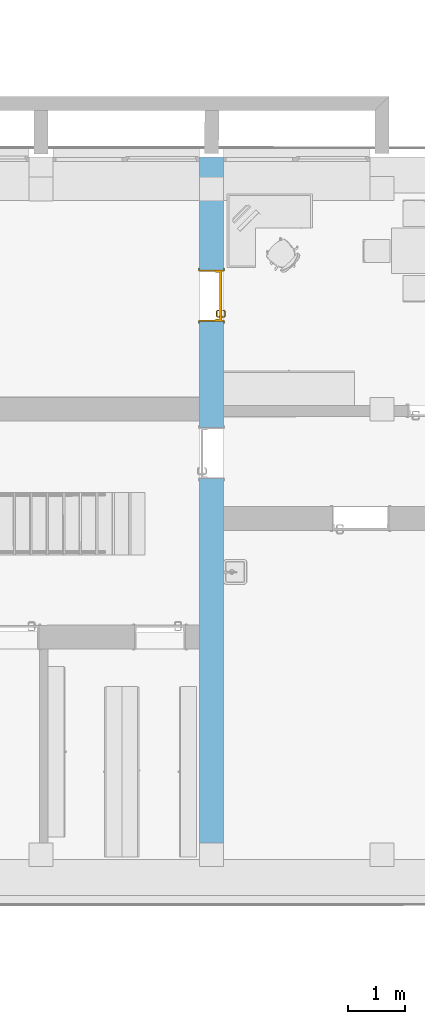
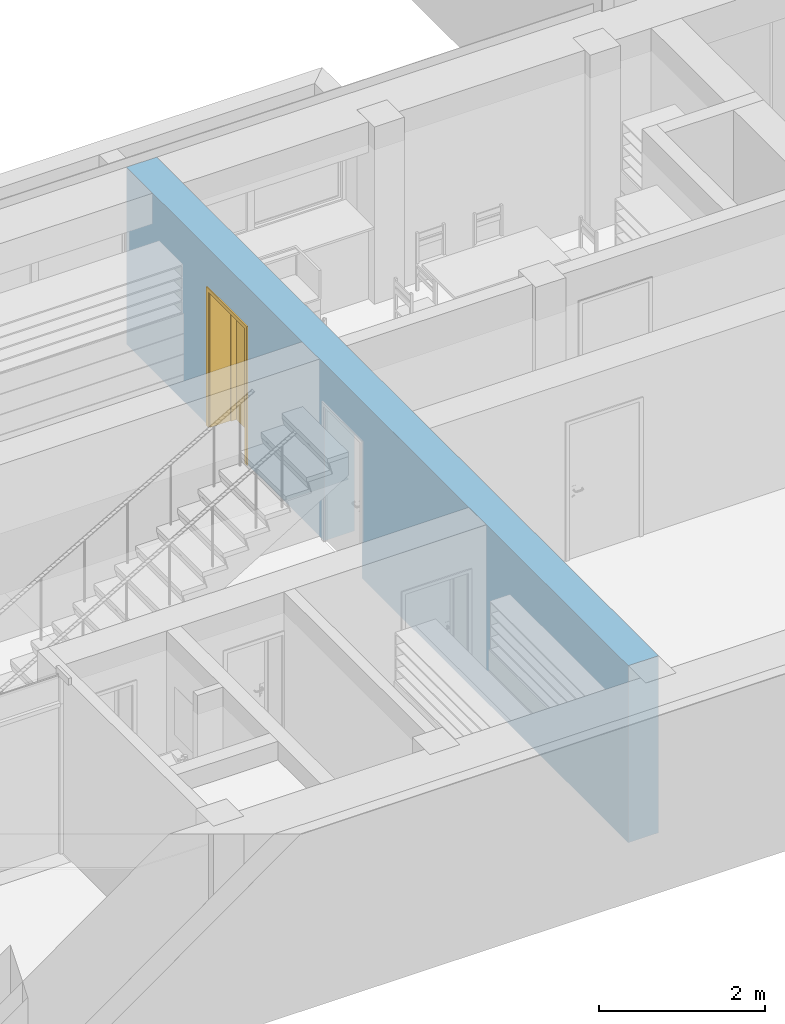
# One storey, part 37 of 127: 1 door, 2 openings, plus 1 element that does not belong to this part.
"""IFC2X3 building model written with IfcOpenShell, lengths in millimetres."""

from ifc_helpers import new_model, entity, si_unit, converted_unit, derived_unit, money_unit, direction, frame, origin_with_axes, origin_2d_with_axis, place, context, subcontext, project, spatial, polyline, rectangle, outline, extrude, open_shell, faceted_brep, surface_model, material, layer, layer_set, layer_usage, type_object, element, fill, save


model = new_model("IFC2X3")

# Units and contexts
model_context = context("Model", 3, precision=1e-05, world=origin_with_axes(), true_north=direction((0.0, 1.0)))
body_context = subcontext(model_context, "Body", "Model", "MODEL_VIEW")
ifc_project = project(units=[si_unit("LENGTHUNIT", "METRE", prefix="MILLI"), si_unit("AREAUNIT", "SQUARE_METRE"), si_unit("VOLUMEUNIT", "CUBIC_METRE"), converted_unit("PLANEANGLEUNIT", "DEGREE", entity("IfcPlaneAngleMeasure", 0.0174532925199), si_unit("PLANEANGLEUNIT", "RADIAN"), dimensions=[0, 0, 0, 0, 0, 0, 0]), si_unit("SOLIDANGLEUNIT", "STERADIAN"), money_unit("EUR"), converted_unit("TIMEUNIT", "Year", entity("IfcTimeMeasure", 31556926.0), si_unit("TIMEUNIT", "SECOND"), dimensions=[0, 0, 1, 0, 0, 0, 0]), si_unit("MASSUNIT", "GRAM", prefix="KILO"), si_unit("THERMODYNAMICTEMPERATUREUNIT", "DEGREE_CELSIUS"), si_unit("LUMINOUSINTENSITYUNIT", "LUMEN"), si_unit("ENERGYUNIT", "JOULE", prefix="MEGA"), derived_unit("THERMALCONDUCTANCEUNIT", [(si_unit("POWERUNIT", "WATT"), 1), (si_unit("LENGTHUNIT", "METRE"), -1), (si_unit("THERMODYNAMICTEMPERATUREUNIT", "KELVIN"), -1)]), derived_unit("SPECIFICHEATCAPACITYUNIT", [(si_unit("ENERGYUNIT", "JOULE"), 1), (si_unit("MASSUNIT", "GRAM", prefix="KILO"), -1), (si_unit("THERMODYNAMICTEMPERATUREUNIT", "KELVIN"), -1)]), derived_unit("MASSDENSITYUNIT", [(si_unit("MASSUNIT", "GRAM", prefix="KILO"), 1), (si_unit("VOLUMEUNIT", "CUBIC_METRE"), -1)])], contexts=[model_context])

# Site, building, storey
site_placement = place(None, origin_with_axes())
site = spatial("IfcSite", under=ifc_project, at=site_placement, Name="Site", CompositionType="ELEMENT")
building_placement = place(site_placement, origin_with_axes())
building = spatial("IfcBuilding", under=site, at=building_placement, Name="Building", CompositionType="ELEMENT")
storey_placement = place(building_placement, origin_with_axes())
storey = spatial("IfcBuildingStorey", under=building, at=storey_placement, Name="1 KORRUS", CompositionType="ELEMENT", Elevation=0.0)

# Wall, openings, door
ifc_material = material(Name="Kivi -Ol.Olev Konstruktsioon")
ifc_layer = layer(ifc_material, 420.0, ventilated="UNKNOWN")
ifc_layer_set = layer_set([ifc_layer], Name="ol.olev ss 420")
ifc_layer_usage = layer_usage(ifc_layer_set, "AXIS2", "POSITIVE", 0.0)
wall_type = type_object("IfcWallType", Name="SW - 036", PredefinedType="NOTDEFINED")
wall_placement = place(storey_placement, frame((30733.8006358, 47248.9611995, 0.0), z_axis=(0.0, 0.0, 1.0), x_axis=(0.0, -1.0, 0.0)))
wall = element("IfcWallStandardCase", 1, at=wall_placement, inside=storey, type_object=wall_type, material=ifc_layer_usage, Name="ol.olev ss 420", context=body_context, shape_type="SweptSolid", body=[
    extrude(outline(polyline([(0.0, 0.0), (12067.3369297, 0.0), (12067.3369297, 420.0), (0.0, 420.0), (0.0, 0.0)])), origin_with_axes(), (0.0, 0.0, 1.0), 2600.0),
])
opening_1_placement = place(wall_placement, frame((5209.12746929, 0.0, 0.0), z_axis=(0.0, 0.0, 1.0), x_axis=(1.0, 0.0, 0.0)))
element("IfcOpeningElement", 2, at=opening_1_placement, cuts=wall, Name="Siseuks * Door 22", context=body_context, shape_type="SweptSolid", body=[
    extrude(rectangle(XDim=900.0, YDim=2000.0, at=origin_2d_with_axis()), frame((0.0, 140.0, 1000.0), z_axis=(0.0, -1.0, 0.0), x_axis=(-1.0, 0.0, 0.0)), (0.0, 0.0, -1.0), 700.0),
    extrude(rectangle(XDim=900.0, YDim=2000.0, at=origin_2d_with_axis()), frame((0.0, 140.0, 1000.0), z_axis=(0.0, 1.0, 0.0), x_axis=(-1.0, 0.0, 0.0)), (0.0, 0.0, -1.0), 560.0),
    extrude(rectangle(XDim=974.0, YDim=2037.0, at=origin_2d_with_axis()), frame((0.0, 0.0, 1018.5), z_axis=(0.0, 1.0, 0.0), x_axis=(-1.0, 0.0, 0.0)), (0.0, 0.0, -1.0), 700.0),
    extrude(rectangle(XDim=974.0, YDim=2037.0, at=origin_2d_with_axis()), frame((0.0, 420.0, 1018.5), z_axis=(0.0, -1.0, 0.0), x_axis=(-1.0, 0.0, 0.0)), (0.0, 0.0, -1.0), 700.0),
])
opening_2_placement = place(wall_placement, frame((2438.5586569, 0.0, 0.0), z_axis=(0.0, 0.0, 1.0), x_axis=(1.0, 0.0, 0.0)))
opening_2 = element("IfcOpeningElement", 3, at=opening_2_placement, cuts=wall, Name="Siseuks * Door 22", context=body_context, shape_type="SweptSolid", body=[
    extrude(rectangle(XDim=900.0, YDim=2000.0, at=origin_2d_with_axis()), frame((0.0, 280.0, 1000.0), z_axis=(0.0, -1.0, 0.0), x_axis=(-1.0, 0.0, 0.0)), (0.0, 0.0, 1.0), 700.0),
    extrude(rectangle(XDim=900.0, YDim=2000.0, at=origin_2d_with_axis()), frame((0.0, 280.0, 1000.0), z_axis=(0.0, 1.0, 0.0), x_axis=(-1.0, 0.0, 0.0)), (0.0, 0.0, 1.0), 560.0),
    extrude(rectangle(XDim=974.0, YDim=2037.0, at=origin_2d_with_axis()), frame((0.0, 420.0, 1018.5), z_axis=(0.0, 1.0, 0.0), x_axis=(-1.0, 0.0, 0.0)), (0.0, 0.0, 1.0), 700.0),
    extrude(rectangle(XDim=974.0, YDim=2037.0, at=origin_2d_with_axis()), frame((0.0, 0.0, 1018.5), z_axis=(0.0, -1.0, 0.0), x_axis=(-1.0, 0.0, 0.0)), (0.0, 0.0, 1.0), 700.0),
])
door_style = type_object("IfcDoorStyle", Name="SU-B108A   900×2\xa0000", ConstructionType="NOTDEFINED", OperationType="SINGLE_SWING_LEFT", ParameterTakesPrecedence=False, Sizeable=False)
door_placement = place(opening_2_placement, frame((-450.0, 0.0, 0.0), z_axis=(0.0, 0.0, 1.0), x_axis=(1.0, 0.0, 0.0)))
door = element("IfcDoor", 4, at=door_placement, inside=storey, type_object=door_style, Name="Siseuks * Door 22", OverallHeight=2000.0, OverallWidth=900.0, context=body_context, shape_type="SurfaceModel", body=[
    faceted_brep([(900.0, 395.0, 0.0), (875.0, 395.0, 0.0), (875.0, 420.0, 0.0), (900.0, 420.0, 0.0), (900.0, 395.0, 2000.0), (875.0, 395.0, 1975.0), (875.0, 420.0, 1975.0), (900.0, 420.0, 2000.0)], [[[0, 1, 2, 3]], [[0, 4, 5, 1]], [[1, 5, 6, 2]], [[3, 2, 6, 7]], [[4, 0, 3, 7]], [[5, 4, 7, 6]]]),
    faceted_brep([(0.0, 395.0, 2000.0), (24.9999999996, 395.0, 1975.0), (24.9999999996, 420.0, 1975.0), (0.0, 420.0, 2000.0), (0.0, 395.0, 0.0), (24.9999999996, 395.0, 0.0), (24.9999999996, 420.0, 0.0), (0.0, 420.0, 0.0)], [[[0, 1, 2, 3]], [[0, 4, 5, 1]], [[1, 5, 6, 2]], [[3, 2, 6, 7]], [[4, 0, 3, 7]], [[5, 4, 7, 6]]]),
    faceted_brep([(875.0, 395.0, 1975.0), (24.9999999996, 395.0, 1975.0), (24.9999999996, 420.0, 1975.0), (875.0, 420.0, 1975.0), (900.0, 395.0, 2000.0), (0.0, 395.0, 2000.0), (0.0, 420.0, 2000.0), (900.0, 420.0, 2000.0)], [[[0, 1, 2, 3]], [[0, 4, 5, 1]], [[1, 5, 6, 2]], [[3, 2, 6, 7]], [[4, 0, 3, 7]], [[5, 4, 7, 6]]]),
    faceted_brep([(937.0, 439.0, 0.0), (937.0, 420.0, 0.0), (887.0, 420.0, 0.0), (887.0, 439.0, 0.0), (937.0, 439.0, 2037.0), (937.0, 420.0, 2037.0), (887.0, 420.0, 1987.0), (887.0, 439.0, 1987.0)], [[[0, 1, 2, 3]], [[4, 5, 1, 0]], [[1, 5, 6, 2]], [[3, 2, 6, 7]], [[0, 3, 7, 4]], [[7, 6, 5, 4]]]),
    faceted_brep([(-37.0000000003, 439.0, 2037.0), (-37.0000000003, 420.0, 2037.0), (12.9999999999, 420.0, 1987.0), (12.9999999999, 439.0, 1987.0), (-37.0000000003, 439.0, 0.0), (-37.0000000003, 420.0, 0.0), (12.9999999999, 420.0, 0.0), (12.9999999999, 439.0, 0.0)], [[[0, 1, 2, 3]], [[4, 5, 1, 0]], [[1, 5, 6, 2]], [[3, 2, 6, 7]], [[0, 3, 7, 4]], [[7, 6, 5, 4]]]),
    faceted_brep([(937.0, 439.0, 2037.0), (937.0, 420.0, 2037.0), (887.0, 420.0, 1987.0), (887.0, 439.0, 1987.0), (-37.0000000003, 439.0, 2037.0), (-37.0000000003, 420.0, 2037.0), (12.9999999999, 420.0, 1987.0), (12.9999999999, 439.0, 1987.0)], [[[0, 1, 2, 3]], [[4, 5, 1, 0]], [[1, 5, 6, 2]], [[3, 2, 6, 7]], [[0, 3, 7, 4]], [[7, 6, 5, 4]]]),
    faceted_brep([(900.0, 280.0, 0.0), (900.0, 0.0, 0.0), (875.0, 0.0, 0.0), (875.0, 280.0, 0.0), (900.0, 280.0, 2000.0), (900.0, 0.0, 2000.0), (875.0, 0.0, 1975.0), (875.0, 280.0, 1975.0)], [[[0, 1, 2, 3]], [[4, 5, 1, 0]], [[1, 5, 6, 2]], [[3, 2, 6, 7]], [[0, 3, 7, 4]], [[7, 6, 5, 4]]]),
    faceted_brep([(0.0, 280.0, 2000.0), (0.0, 0.0, 2000.0), (24.9999999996, 0.0, 1975.0), (24.9999999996, 280.0, 1975.0), (0.0, 280.0, 0.0), (0.0, 0.0, 0.0), (24.9999999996, 0.0, 0.0), (24.9999999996, 280.0, 0.0)], [[[0, 1, 2, 3]], [[4, 5, 1, 0]], [[1, 5, 6, 2]], [[3, 2, 6, 7]], [[0, 3, 7, 4]], [[7, 6, 5, 4]]]),
    faceted_brep([(900.0, 280.0, 2000.0), (900.0, 0.0, 2000.0), (875.0, 0.0, 1975.0), (875.0, 280.0, 1975.0), (0.0, 280.0, 2000.0), (0.0, 0.0, 2000.0), (24.9999999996, 0.0, 1975.0), (24.9999999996, 280.0, 1975.0)], [[[0, 1, 2, 3]], [[4, 5, 1, 0]], [[1, 5, 6, 2]], [[3, 2, 6, 7]], [[0, 3, 7, 4]], [[7, 6, 5, 4]]]),
    faceted_brep([(937.0, -19.0, 0.0), (887.0, -19.0, 0.0), (887.0, 0.0, 0.0), (937.0, 0.0, 0.0), (937.0, -19.0, 2037.0), (887.0, -19.0, 1987.0), (887.0, 0.0, 1987.0), (937.0, 0.0, 2037.0)], [[[0, 1, 2, 3]], [[0, 4, 5, 1]], [[1, 5, 6, 2]], [[3, 2, 6, 7]], [[4, 0, 3, 7]], [[5, 4, 7, 6]]]),
    faceted_brep([(-37.0000000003, -19.0, 2037.0), (12.9999999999, -19.0, 1987.0), (12.9999999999, 0.0, 1987.0), (-37.0000000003, 0.0, 2037.0), (-37.0000000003, -19.0, 0.0), (12.9999999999, -19.0, 0.0), (12.9999999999, 0.0, 0.0), (-37.0000000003, 0.0, 0.0)], [[[0, 1, 2, 3]], [[0, 4, 5, 1]], [[1, 5, 6, 2]], [[3, 2, 6, 7]], [[4, 0, 3, 7]], [[5, 4, 7, 6]]]),
    faceted_brep([(937.0, -19.0, 2037.0), (887.0, -19.0, 1987.0), (887.0, 0.0, 1987.0), (937.0, 0.0, 2037.0), (-37.0000000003, -19.0, 2037.0), (12.9999999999, -19.0, 1987.0), (12.9999999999, 0.0, 1987.0), (-37.0000000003, 0.0, 2037.0)], [[[0, 1, 2, 3]], [[0, 4, 5, 1]], [[1, 5, 6, 2]], [[3, 2, 6, 7]], [[4, 0, 3, 7]], [[5, 4, 7, 6]]]),
    faceted_brep([(860.0, 355.0, 0.0), (860.0, 280.0, 0.0), (860.0, 280.0, 1960.0), (860.0, 355.0, 1960.0), (871.999999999, 355.0, 0.0), (871.999999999, 395.0, 0.0), (900.0, 395.0, 0.0), (900.0, 280.0, 0.0), (900.0, 280.0, 1960.0), (871.999999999, 355.0, 1960.0), (900.0, 395.0, 1960.0), (871.999999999, 395.0, 1960.0)], [[[0, 1, 2, 3]], [[4, 5, 6, 7, 1, 0]], [[1, 7, 8, 2]], [[9, 3, 2, 8, 10, 11]], [[9, 4, 0, 3]], [[11, 5, 4, 9]], [[11, 10, 6, 5]], [[6, 10, 8, 7]]]),
    faceted_brep([(28.0000000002, 355.0, 1960.0), (28.0000000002, 395.0, 1960.0), (0.0, 395.0, 1960.0), (0.0, 280.0, 1960.0), (40.0, 280.0, 1960.0), (40.0, 355.0, 1960.0), (28.0000000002, 355.0, 0.0), (28.0000000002, 395.0, 0.0), (0.0, 395.0, 0.0), (0.0, 280.0, 0.0), (40.0, 280.0, 0.0), (40.0, 355.0, 0.0)], [[[0, 1, 2, 3, 4, 5]], [[0, 6, 7, 1]], [[7, 8, 2, 1]], [[2, 8, 9, 3]], [[3, 9, 10, 4]], [[5, 4, 10, 11]], [[5, 11, 6, 0]], [[6, 11, 10, 9, 8, 7]]]),
    faceted_brep([(871.999999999, 395.0, 1972.0), (28.0000000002, 395.0, 1972.0), (28.0000000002, 395.0, 1960.0), (0.0, 395.0, 1960.0), (0.0, 395.0, 2000.0), (900.0, 395.0, 2000.0), (900.0, 395.0, 1960.0), (871.999999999, 395.0, 1960.0), (871.999999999, 355.0, 1972.0), (28.0000000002, 355.0, 1972.0), (28.0000000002, 355.0, 1960.0), (40.0, 355.0, 1960.0), (40.0, 280.0, 1960.0), (0.0, 280.0, 1960.0), (0.0, 280.0, 2000.0), (900.0, 280.0, 2000.0), (900.0, 280.0, 1960.0), (871.999999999, 355.0, 1960.0), (860.0, 280.0, 1960.0), (860.0, 355.0, 1960.0)], [[[0, 1, 2, 3, 4, 5, 6, 7]], [[0, 8, 9, 1]], [[1, 9, 10, 2]], [[10, 11, 12, 13, 3, 2]], [[4, 3, 13, 14]], [[5, 4, 14, 15]], [[6, 5, 15, 16]], [[17, 7, 6, 16, 18, 19]], [[7, 17, 8, 0]], [[10, 9, 8, 17, 19, 11]], [[19, 18, 12, 11]], [[12, 18, 16, 15, 14, 13]]]),
    faceted_brep([(850.5, 355.0, 1060.0), (793.5, 355.0, 1060.0), (793.5, 352.0, 1060.0), (850.5, 352.0, 1060.0), (850.5, 355.0, 870.0), (793.5, 355.0, 870.0), (793.5, 352.0, 870.0), (850.5, 352.0, 870.0)], [[[0, 1, 2, 3]], [[0, 4, 5, 1]], [[1, 5, 6, 2]], [[3, 2, 6, 7]], [[4, 0, 3, 7]], [[5, 4, 7, 6]]]),
    surface_model("IfcShellBasedSurfaceModel", [(812.0, 342.0, 1000.0), (814.928932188, 342.0, 992.928932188), (814.928932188, 322.696439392, 992.928932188), (812.0, 322.984914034, 1000.0), (822.0, 342.0, 990.0), (822.0, 322.0, 990.0), (813.816790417, 317.105325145, 992.928932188), (811.057796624, 318.248137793, 1000.0), (814.928932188, 342.0, 1007.07106781), (814.928932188, 322.696439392, 1007.07106781), (829.071067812, 342.0, 992.928932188), (829.071067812, 321.303560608, 992.928932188), (820.47759065, 314.346331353, 990.0), (811.044179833, 312.955820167, 992.928932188), (808.932537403, 315.067462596, 1000.0), (813.816790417, 317.105325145, 1007.07106781), (822.0, 342.0, 1010.0), (822.0, 322.0, 1010.0), (831.999999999, 342.0, 1000.0), (831.999999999, 321.015085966, 1000.0), (827.138390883, 311.58733756, 992.928932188), (816.142135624, 307.857864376, 990.0), (806.894674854, 310.183209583, 992.928932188), (805.751862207, 312.942203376, 1000.0), (811.044179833, 312.955820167, 1007.07106781), (820.47759065, 314.346331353, 1010.0), (829.071067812, 342.0, 1007.07106781), (829.071067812, 321.303560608, 1007.07106781), (829.897384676, 310.444524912, 1000.0), (821.240091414, 302.759908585, 992.928932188), (809.653668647, 303.52240935, 990.0), (801.303560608, 309.071067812, 992.928932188), (801.015085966, 312.0, 1000.0), (806.894674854, 310.183209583, 1007.07106781), (816.142135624, 307.857864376, 1010.0), (827.138390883, 311.58733756, 1007.07106781), (823.351733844, 300.648266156, 1000.0), (812.41266244, 296.861609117, 992.928932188), (802.0, 302.0, 990.0), (732.696439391, 309.071067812, 992.928932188), (732.984914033, 312.0, 1000.0), (801.303560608, 309.071067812, 1007.07106781), (809.653668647, 303.52240935, 1010.0), (821.240091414, 302.759908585, 1007.07106781), (813.555475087, 294.102615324, 1000.0), (802.696439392, 294.928932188, 992.928932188), (732.0, 302.0, 990.0), (727.105325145, 310.183209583, 992.928932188), (728.248137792, 312.942203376, 1000.0), (732.696439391, 309.071067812, 1007.07106781), (802.0, 302.0, 1010.0), (812.41266244, 296.861609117, 1007.07106781), (802.984914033, 292.0, 1000.0), (731.303560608, 294.928932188, 992.928932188), (724.346331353, 303.52240935, 990.0), (722.955820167, 312.955820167, 992.928932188), (725.067462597, 315.067462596, 1000.0), (727.105325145, 310.183209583, 1007.07106781), (732.0, 302.0, 1010.0), (802.696439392, 294.928932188, 1007.07106781), (731.015085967, 292.0, 1000.0), (721.58733756, 296.861609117, 992.928932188), (717.857864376, 307.857864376, 990.0), (720.183209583, 317.105325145, 992.928932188), (722.942203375, 318.248137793, 1000.0), (722.955820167, 312.955820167, 1007.07106781), (724.346331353, 303.52240935, 1010.0), (731.303560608, 294.928932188, 1007.07106781), (720.444524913, 294.102615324, 1000.0), (712.759908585, 302.759908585, 992.928932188), (713.52240935, 314.346331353, 990.0), (719.071067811, 322.696439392, 992.928932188), (722.0, 322.984914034, 1000.0), (720.183209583, 317.105325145, 1007.07106781), (717.857864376, 307.857864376, 1010.0), (721.58733756, 296.861609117, 1007.07106781), (710.648266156, 300.648266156, 1000.0), (706.861609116, 311.58733756, 992.928932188), (712.0, 322.0, 990.0), (719.071067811, 342.0, 992.928932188), (722.0, 342.0, 1000.0), (719.071067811, 322.696439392, 1007.07106781), (713.52240935, 314.346331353, 1010.0), (712.759908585, 302.759908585, 1007.07106781), (704.102615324, 310.444524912, 1000.0), (704.928932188, 321.303560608, 992.928932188), (712.0, 342.0, 990.0), (704.928932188, 342.0, 992.928932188), (702.0, 342.0, 1000.0), (704.928932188, 342.0, 1007.07106781), (712.0, 342.0, 1010.0), (719.071067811, 342.0, 1007.07106781), (712.0, 322.0, 1010.0), (706.861609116, 311.58733756, 1007.07106781), (702.0, 321.015085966, 1000.0), (704.928932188, 321.303560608, 1007.07106781)], [open_shell([[[0, 1, 2, 3]], [[1, 4, 5, 2]], [[3, 2, 6, 7]], [[8, 0, 3, 9]], [[4, 10, 11, 5]], [[2, 5, 12, 6]], [[7, 6, 13, 14]], [[9, 3, 7, 15]], [[16, 8, 9, 17]], [[10, 18, 19, 11]], [[5, 11, 20, 12]], [[6, 12, 21, 13]], [[14, 13, 22, 23]], [[15, 7, 14, 24]], [[17, 9, 15, 25]], [[26, 16, 17, 27]], [[18, 26, 27, 19]], [[11, 19, 28, 20]], [[12, 20, 29, 21]], [[13, 21, 30, 22]], [[23, 22, 31, 32]], [[24, 14, 23, 33]], [[25, 15, 24, 34]], [[27, 17, 25, 35]], [[19, 27, 35, 28]], [[20, 28, 36, 29]], [[21, 29, 37, 30]], [[22, 30, 38, 31]], [[32, 31, 39, 40]], [[33, 23, 32, 41]], [[34, 24, 33, 42]], [[35, 25, 34, 43]], [[28, 35, 43, 36]], [[29, 36, 44, 37]], [[30, 37, 45, 38]], [[31, 38, 46, 39]], [[40, 39, 47, 48]], [[41, 32, 40, 49]], [[42, 33, 41, 50]], [[43, 34, 42, 51]], [[36, 43, 51, 44]], [[37, 44, 52, 45]], [[38, 45, 53, 46]], [[39, 46, 54, 47]], [[48, 47, 55, 56]], [[49, 40, 48, 57]], [[50, 41, 49, 58]], [[51, 42, 50, 59]], [[44, 51, 59, 52]], [[45, 52, 60, 53]], [[46, 53, 61, 54]], [[47, 54, 62, 55]], [[56, 55, 63, 64]], [[57, 48, 56, 65]], [[58, 49, 57, 66]], [[59, 50, 58, 67]], [[52, 59, 67, 60]], [[53, 60, 68, 61]], [[54, 61, 69, 62]], [[55, 62, 70, 63]], [[64, 63, 71, 72]], [[65, 56, 64, 73]], [[66, 57, 65, 74]], [[67, 58, 66, 75]], [[60, 67, 75, 68]], [[61, 68, 76, 69]], [[62, 69, 77, 70]], [[63, 70, 78, 71]], [[72, 71, 79, 80]], [[73, 64, 72, 81]], [[74, 65, 73, 82]], [[75, 66, 74, 83]], [[68, 75, 83, 76]], [[69, 76, 84, 77]], [[70, 77, 85, 78]], [[71, 78, 86, 79]], [[80, 79, 86, 87, 88, 89, 90, 91]], [[81, 72, 80, 91]], [[82, 73, 81, 92]], [[83, 74, 82, 93]], [[76, 83, 93, 84]], [[77, 84, 94, 85]], [[78, 85, 87, 86]], [[85, 94, 88, 87]], [[94, 95, 89, 88]], [[95, 92, 90, 89]], [[92, 81, 91, 90]], [[93, 82, 92, 95]], [[84, 93, 95, 94]]])]),
    faceted_brep([(811.607695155, 342.0, 994.0), (809.999999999, 342.0, 1000.0), (809.0, 352.0, 1000.0), (810.74166975, 352.0, 993.5), (816.0, 342.0, 989.607695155), (822.0, 342.0, 988.0), (828.0, 342.0, 989.607695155), (832.392304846, 342.0, 994.0), (834.0, 342.0, 1000.0), (832.392304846, 342.0, 1006.0), (828.0, 342.0, 1010.39230485), (822.0, 342.0, 1012.0), (816.0, 342.0, 1010.39230485), (811.607695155, 342.0, 1006.0), (810.74166975, 352.0, 1006.5), (815.5, 352.0, 1011.25833025), (822.0, 352.0, 1013.0), (828.5, 352.0, 1011.25833025), (833.258330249, 352.0, 1006.5), (835.0, 352.0, 1000.0), (833.258330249, 352.0, 993.5), (828.5, 352.0, 988.741669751), (822.0, 352.0, 987.0), (815.5, 352.0, 988.741669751)], [[[0, 1, 2, 3]], [[1, 0, 4, 5, 6, 7, 8, 9, 10, 11, 12, 13]], [[1, 13, 14, 2]], [[2, 14, 15, 16, 17, 18, 19, 20, 21, 22, 23, 3]], [[4, 0, 3, 23]], [[5, 4, 23, 22]], [[6, 5, 22, 21]], [[7, 6, 21, 20]], [[8, 7, 20, 19]], [[9, 8, 19, 18]], [[10, 9, 18, 17]], [[11, 10, 17, 16]], [[12, 11, 16, 15]], [[13, 12, 15, 14]]]),
    faceted_brep([(804.679491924, 348.0, 895.0), (802.0, 348.0, 905.0), (800.0, 352.0, 905.0), (802.947441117, 352.0, 894.0), (812.0, 348.0, 887.679491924), (822.0, 348.0, 885.0), (831.999999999, 348.0, 887.679491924), (839.320508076, 348.0, 895.0), (842.0, 348.0, 905.0), (839.320508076, 348.0, 915.0), (831.999999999, 348.0, 922.320508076), (822.0, 348.0, 925.0), (812.0, 348.0, 922.320508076), (804.679491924, 348.0, 915.0), (802.947441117, 352.0, 916.0), (811.0, 352.0, 924.052558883), (822.0, 352.0, 927.0), (833.0, 352.0, 924.052558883), (841.052558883, 352.0, 916.0), (844.0, 352.0, 905.0), (841.052558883, 352.0, 894.0), (833.0, 352.0, 885.947441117), (822.0, 352.0, 883.0), (811.0, 352.0, 885.947441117)], [[[0, 1, 2, 3]], [[1, 0, 4, 5, 6, 7, 8, 9, 10, 11, 12, 13]], [[1, 13, 14, 2]], [[2, 14, 15, 16, 17, 18, 19, 20, 21, 22, 23, 3]], [[4, 0, 3, 23]], [[5, 4, 23, 22]], [[6, 5, 22, 21]], [[7, 6, 21, 20]], [[8, 7, 20, 19]], [[9, 8, 19, 18]], [[10, 9, 18, 17]], [[11, 10, 17, 16]], [[12, 11, 16, 15]], [[13, 12, 15, 14]]]),
    faceted_brep([(817.050252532, 346.0, 909.050252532), (815.0, 346.0, 914.0), (813.999999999, 348.0, 914.0), (816.343145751, 348.0, 908.343145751), (822.0, 346.0, 907.0), (826.949747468, 346.0, 909.050252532), (829.0, 346.0, 914.0), (826.949747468, 346.0, 918.949747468), (822.0, 346.0, 921.0), (817.050252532, 346.0, 918.949747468), (816.343145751, 348.0, 919.656854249), (822.0, 348.0, 922.0), (827.65685425, 348.0, 919.656854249), (830.0, 348.0, 914.0), (827.65685425, 348.0, 908.343145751), (822.0, 348.0, 906.0)], [[[0, 1, 2, 3]], [[1, 0, 4, 5, 6, 7, 8, 9]], [[1, 9, 10, 2]], [[2, 10, 11, 12, 13, 14, 15, 3]], [[4, 0, 3, 15]], [[5, 4, 15, 14]], [[6, 5, 14, 13]], [[7, 6, 13, 12]], [[8, 7, 12, 11]], [[9, 8, 11, 10]]]),
    faceted_brep([(850.5, 395.0, 1060.0), (850.5, 398.0, 1060.0), (793.5, 398.0, 1060.0), (793.5, 395.0, 1060.0), (850.5, 395.0, 870.0), (850.5, 398.0, 870.0), (793.5, 398.0, 870.0), (793.5, 395.0, 870.0)], [[[0, 1, 2, 3]], [[4, 5, 1, 0]], [[1, 5, 6, 2]], [[3, 2, 6, 7]], [[0, 3, 7, 4]], [[7, 6, 5, 4]]]),
    surface_model("IfcShellBasedSurfaceModel", [(812.0, 408.0, 1000.0), (812.0, 427.015085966, 1000.0), (814.928932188, 427.303560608, 992.928932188), (814.928932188, 408.0, 992.928932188), (814.928932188, 408.0, 1007.07106781), (814.928932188, 427.303560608, 1007.07106781), (811.057796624, 431.751862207, 1000.0), (813.816790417, 432.894674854, 992.928932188), (822.0, 428.0, 990.0), (822.0, 408.0, 990.0), (822.0, 408.0, 1010.0), (822.0, 428.0, 1010.0), (813.816790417, 432.894674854, 1007.07106781), (808.932537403, 434.932537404, 1000.0), (811.044179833, 437.044179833, 992.928932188), (820.47759065, 435.653668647, 990.0), (829.071067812, 428.696439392, 992.928932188), (829.071067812, 408.0, 992.928932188), (829.071067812, 408.0, 1007.07106781), (829.071067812, 428.696439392, 1007.07106781), (820.47759065, 435.653668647, 1010.0), (811.044179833, 437.044179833, 1007.07106781), (805.751862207, 437.057796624, 1000.0), (806.894674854, 439.816790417, 992.928932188), (816.142135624, 442.142135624, 990.0), (827.138390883, 438.41266244, 992.928932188), (831.999999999, 428.984914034, 1000.0), (831.999999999, 408.0, 1000.0), (827.138390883, 438.41266244, 1007.07106781), (816.142135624, 442.142135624, 1010.0), (806.894674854, 439.816790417, 1007.07106781), (801.015085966, 438.0, 1000.0), (801.303560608, 440.928932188, 992.928932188), (809.653668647, 446.47759065, 990.0), (821.240091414, 447.240091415, 992.928932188), (829.897384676, 439.555475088, 1000.0), (821.240091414, 447.240091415, 1007.07106781), (809.653668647, 446.47759065, 1010.0), (801.303560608, 440.928932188, 1007.07106781), (732.984914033, 438.0, 1000.0), (732.696439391, 440.928932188, 992.928932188), (802.0, 448.0, 990.0), (812.41266244, 453.138390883, 992.928932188), (823.351733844, 449.351733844, 1000.0), (812.41266244, 453.138390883, 1007.07106781), (802.0, 448.0, 1010.0), (732.696439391, 440.928932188, 1007.07106781), (728.248137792, 437.057796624, 1000.0), (727.105325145, 439.816790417, 992.928932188), (732.0, 448.0, 990.0), (802.696439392, 455.071067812, 992.928932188), (813.555475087, 455.897384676, 1000.0), (802.696439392, 455.071067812, 1007.07106781), (732.0, 448.0, 1010.0), (727.105325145, 439.816790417, 1007.07106781), (725.067462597, 434.932537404, 1000.0), (722.955820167, 437.044179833, 992.928932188), (724.346331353, 446.47759065, 990.0), (731.303560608, 455.071067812, 992.928932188), (802.984914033, 458.0, 1000.0), (731.303560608, 455.071067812, 1007.07106781), (724.346331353, 446.47759065, 1010.0), (722.955820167, 437.044179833, 1007.07106781), (722.942203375, 431.751862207, 1000.0), (720.183209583, 432.894674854, 992.928932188), (717.857864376, 442.142135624, 990.0), (721.58733756, 453.138390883, 992.928932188), (731.015085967, 458.0, 1000.0), (721.58733756, 453.138390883, 1007.07106781), (717.857864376, 442.142135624, 1010.0), (720.183209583, 432.894674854, 1007.07106781), (722.0, 427.015085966, 1000.0), (719.071067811, 427.303560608, 992.928932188), (713.52240935, 435.653668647, 990.0), (712.759908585, 447.240091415, 992.928932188), (720.444524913, 455.897384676, 1000.0), (712.759908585, 447.240091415, 1007.07106781), (713.52240935, 435.653668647, 1010.0), (719.071067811, 427.303560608, 1007.07106781), (722.0, 408.0, 1000.0), (719.071067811, 408.0, 992.928932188), (712.0, 428.0, 990.0), (706.861609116, 438.41266244, 992.928932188), (710.648266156, 449.351733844, 1000.0), (706.861609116, 438.41266244, 1007.07106781), (712.0, 428.0, 1010.0), (719.071067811, 408.0, 1007.07106781), (712.0, 408.0, 1010.0), (704.928932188, 408.0, 1007.07106781), (702.0, 408.0, 1000.0), (704.928932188, 408.0, 992.928932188), (712.0, 408.0, 990.0), (704.928932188, 428.696439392, 992.928932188), (704.102615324, 439.555475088, 1000.0), (704.928932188, 428.696439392, 1007.07106781), (702.0, 428.984914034, 1000.0)], [open_shell([[[0, 1, 2, 3]], [[4, 5, 1, 0]], [[1, 6, 7, 2]], [[3, 2, 8, 9]], [[10, 11, 5, 4]], [[5, 12, 6, 1]], [[6, 13, 14, 7]], [[2, 7, 15, 8]], [[9, 8, 16, 17]], [[18, 19, 11, 10]], [[11, 20, 12, 5]], [[12, 21, 13, 6]], [[13, 22, 23, 14]], [[7, 14, 24, 15]], [[8, 15, 25, 16]], [[17, 16, 26, 27]], [[27, 26, 19, 18]], [[19, 28, 20, 11]], [[20, 29, 21, 12]], [[21, 30, 22, 13]], [[22, 31, 32, 23]], [[14, 23, 33, 24]], [[15, 24, 34, 25]], [[16, 25, 35, 26]], [[26, 35, 28, 19]], [[28, 36, 29, 20]], [[29, 37, 30, 21]], [[30, 38, 31, 22]], [[31, 39, 40, 32]], [[23, 32, 41, 33]], [[24, 33, 42, 34]], [[25, 34, 43, 35]], [[35, 43, 36, 28]], [[36, 44, 37, 29]], [[37, 45, 38, 30]], [[38, 46, 39, 31]], [[39, 47, 48, 40]], [[32, 40, 49, 41]], [[33, 41, 50, 42]], [[34, 42, 51, 43]], [[43, 51, 44, 36]], [[44, 52, 45, 37]], [[45, 53, 46, 38]], [[46, 54, 47, 39]], [[47, 55, 56, 48]], [[40, 48, 57, 49]], [[41, 49, 58, 50]], [[42, 50, 59, 51]], [[51, 59, 52, 44]], [[52, 60, 53, 45]], [[53, 61, 54, 46]], [[54, 62, 55, 47]], [[55, 63, 64, 56]], [[48, 56, 65, 57]], [[49, 57, 66, 58]], [[50, 58, 67, 59]], [[59, 67, 60, 52]], [[60, 68, 61, 53]], [[61, 69, 62, 54]], [[62, 70, 63, 55]], [[63, 71, 72, 64]], [[56, 64, 73, 65]], [[57, 65, 74, 66]], [[58, 66, 75, 67]], [[67, 75, 68, 60]], [[68, 76, 69, 61]], [[69, 77, 70, 62]], [[70, 78, 71, 63]], [[71, 79, 80, 72]], [[64, 72, 81, 73]], [[65, 73, 82, 74]], [[66, 74, 83, 75]], [[75, 83, 76, 68]], [[76, 84, 77, 69]], [[77, 85, 78, 70]], [[78, 86, 79, 71]], [[79, 86, 87, 88, 89, 90, 91, 80]], [[72, 80, 91, 81]], [[73, 81, 92, 82]], [[74, 82, 93, 83]], [[83, 93, 84, 76]], [[84, 94, 85, 77]], [[85, 87, 86, 78]], [[94, 88, 87, 85]], [[95, 89, 88, 94]], [[92, 90, 89, 95]], [[81, 91, 90, 92]], [[82, 92, 95, 93]], [[93, 95, 94, 84]]])]),
    faceted_brep([(811.607695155, 408.0, 994.0), (810.74166975, 398.0, 993.5), (809.0, 398.0, 1000.0), (809.999999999, 408.0, 1000.0), (816.0, 408.0, 989.607695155), (815.5, 398.0, 988.741669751), (822.0, 398.0, 987.0), (828.5, 398.0, 988.741669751), (833.258330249, 398.0, 993.5), (835.0, 398.0, 1000.0), (833.258330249, 398.0, 1006.5), (828.5, 398.0, 1011.25833025), (822.0, 398.0, 1013.0), (815.5, 398.0, 1011.25833025), (810.74166975, 398.0, 1006.5), (811.607695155, 408.0, 1006.0), (816.0, 408.0, 1010.39230485), (822.0, 408.0, 1012.0), (828.0, 408.0, 1010.39230485), (832.392304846, 408.0, 1006.0), (834.0, 408.0, 1000.0), (832.392304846, 408.0, 994.0), (828.0, 408.0, 989.607695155), (822.0, 408.0, 988.0)], [[[0, 1, 2, 3]], [[4, 5, 1, 0]], [[2, 1, 5, 6, 7, 8, 9, 10, 11, 12, 13, 14]], [[3, 2, 14, 15]], [[3, 15, 16, 17, 18, 19, 20, 21, 22, 23, 4, 0]], [[23, 6, 5, 4]], [[22, 7, 6, 23]], [[21, 8, 7, 22]], [[20, 9, 8, 21]], [[19, 10, 9, 20]], [[18, 11, 10, 19]], [[17, 12, 11, 18]], [[16, 13, 12, 17]], [[15, 14, 13, 16]]]),
    faceted_brep([(804.679491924, 402.0, 895.0), (802.947441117, 398.0, 894.0), (800.0, 398.0, 905.0), (802.0, 402.0, 905.0), (812.0, 402.0, 887.679491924), (811.0, 398.0, 885.947441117), (822.0, 398.0, 883.0), (833.0, 398.0, 885.947441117), (841.052558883, 398.0, 894.0), (844.0, 398.0, 905.0), (841.052558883, 398.0, 916.0), (833.0, 398.0, 924.052558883), (822.0, 398.0, 927.0), (811.0, 398.0, 924.052558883), (802.947441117, 398.0, 916.0), (804.679491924, 402.0, 915.0), (812.0, 402.0, 922.320508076), (822.0, 402.0, 925.0), (831.999999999, 402.0, 922.320508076), (839.320508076, 402.0, 915.0), (842.0, 402.0, 905.0), (839.320508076, 402.0, 895.0), (831.999999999, 402.0, 887.679491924), (822.0, 402.0, 885.0)], [[[0, 1, 2, 3]], [[4, 5, 1, 0]], [[2, 1, 5, 6, 7, 8, 9, 10, 11, 12, 13, 14]], [[3, 2, 14, 15]], [[3, 15, 16, 17, 18, 19, 20, 21, 22, 23, 4, 0]], [[23, 6, 5, 4]], [[22, 7, 6, 23]], [[21, 8, 7, 22]], [[20, 9, 8, 21]], [[19, 10, 9, 20]], [[18, 11, 10, 19]], [[17, 12, 11, 18]], [[16, 13, 12, 17]], [[15, 14, 13, 16]]]),
    faceted_brep([(817.050252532, 404.0, 909.050252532), (816.343145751, 402.0, 908.343145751), (813.999999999, 402.0, 914.0), (815.0, 404.0, 914.0), (822.0, 404.0, 907.0), (822.0, 402.0, 906.0), (827.65685425, 402.0, 908.343145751), (830.0, 402.0, 914.0), (827.65685425, 402.0, 919.656854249), (822.0, 402.0, 922.0), (816.343145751, 402.0, 919.656854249), (817.050252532, 404.0, 918.949747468), (822.0, 404.0, 921.0), (826.949747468, 404.0, 918.949747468), (829.0, 404.0, 914.0), (826.949747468, 404.0, 909.050252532)], [[[0, 1, 2, 3]], [[4, 5, 1, 0]], [[2, 1, 5, 6, 7, 8, 9, 10]], [[3, 2, 10, 11]], [[3, 11, 12, 13, 14, 15, 4, 0]], [[15, 6, 5, 4]], [[14, 7, 6, 15]], [[13, 8, 7, 14]], [[12, 9, 8, 13]], [[11, 10, 9, 12]]]),
    faceted_brep([(28.0000000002, 395.0, 0.0), (871.999999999, 395.0, 0.0), (871.999999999, 355.0, 0.0), (28.0000000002, 355.0, 0.0), (28.0000000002, 395.0, 1972.0), (871.999999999, 395.0, 1972.0), (871.999999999, 355.0, 1972.0), (28.0000000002, 355.0, 1972.0)], [[[0, 1, 2, 3]], [[0, 4, 5, 1]], [[1, 5, 6, 2]], [[3, 2, 6, 7]], [[4, 0, 3, 7]], [[5, 4, 7, 6]]]),
])
fill(opening_2, door)

save(model, "model.ifc")
